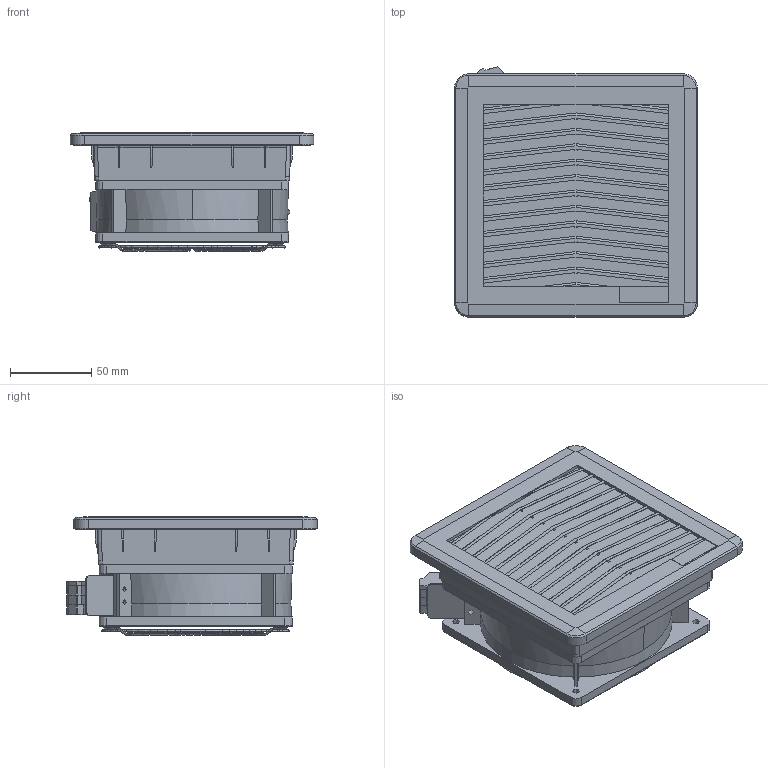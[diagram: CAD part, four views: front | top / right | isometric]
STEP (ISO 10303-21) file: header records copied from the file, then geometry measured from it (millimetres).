
FILE_DESCRIPTION(/* description */ (''),/* implementation_level */ '2;1');
FILE_NAME(/* name */ 'FF12AxxxyNR',/* time_stamp */ '2025-10-30T12:03:42+01:00',/* author */ (''),/* organization */ (''),/* preprocessor_version */ 'ST-DEVELOPER v16.5',/* originating_system */ 'Rhino 7.38',/* authorisation */ '');
FILE_SCHEMA (('AUTOMOTIVE_DESIGN'));
Length unit declared in the file: millimetre
Products named in the file (15): Document; FF12AxxxyNR; DT-01848DSI_Semplificata; DT-01853DSI; 261-311_317_321_361_Semplificato; 261-317_semplificato; 261-361_semplificato; 261-321_semplificato; 261-311_semplificato; DT-01842DSI_4715FS xxWB5A Semplificato; DT-01852DSI_Default Assieme semplificato; DT-00350DSI_Base 124 semplificata; DT-04082DSI_mostrina semplificata; DT-00200DSI_Coperchio semplificato; Blocco 01
Assembly tree (14 placements, depth 5):
  Document
    FF12AxxxyNR
      DT-01848DSI_Semplificata
      DT-01853DSI
      261-311_317_321_361_Semplificato
        261-317_semplificato
        261-361_semplificato
        261-321_semplificato
        261-311_semplificato
      DT-01842DSI_4715FS xxWB5A Semplificato
      DT-01852DSI_Default Assieme semplificato
        DT-00350DSI_Base 124 semplificata
        DT-04082DSI_mostrina semplificata
        DT-00200DSI_Coperchio semplificato
          Blocco 01
Bounding box: 150 x 154.4 x 73.1 mm (x, y, z)
Volume: 631067.4 mm3; surface area: 183370.6 mm2
Topology: 11 solids, 12 shells, 560 faces, 1579 edges, 1037 vertices
Faces by surface type: plane 384, bspline 97, cylinder 79
Entity records: 31806 total; most frequent: CARTESIAN_POINT 19599, ORIENTED_EDGE 3154, EDGE_CURVE 1579, B_SPLINE_CURVE_WITH_KNOTS 1322, VERTEX_POINT 1037, EDGE_LOOP 639, ADVANCED_FACE 560, FACE_OUTER_BOUND 560
